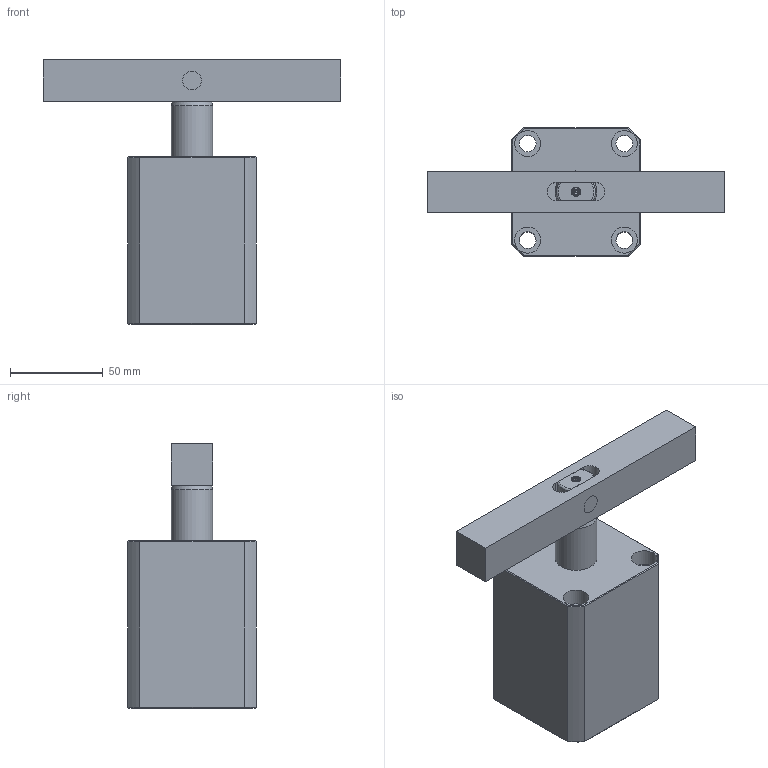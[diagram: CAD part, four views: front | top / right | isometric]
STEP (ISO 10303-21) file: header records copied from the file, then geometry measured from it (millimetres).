
FILE_DESCRIPTION(/* description */ ('Unknown'),/* implementation_level */ '2;1');
FILE_NAME(/* name */ 'HSC-M40D-B',/* time_stamp */ '2019-05-27T15:10:31+08:00',/* author */ ('Unknown'),/* organization */ ('Unknown'),/* preprocessor_version */ 'ST-DEVELOPER v16.7',/* originating_system */ 'DEX',/* authorisation */ $);
FILE_SCHEMA (('AUTOMOTIVE_DESIGN {1 0 10303 214 3 1 1}'));
Length unit declared in the file: millimetre
Products named in the file (5): HSC-M40D-B; HSC-M40D-CYLINDER; HSC-4002-D-AXLE CENTRE; HSC-4002-D-FIXED PIN; HSC-40D-B
Assembly tree (4 placements, depth 2):
  HSC-M40D-B
    HSC-M40D-CYLINDER
    HSC-4002-D-AXLE CENTRE
    HSC-4002-D-FIXED PIN
    HSC-40D-B
Bounding box: 160 x 69 x 142.2 mm (x, y, z)
Volume: 449138.9 mm3; surface area: 80906.3 mm2
Topology: 4 solids, 4 shells, 136 faces, 294 edges, 185 vertices
Faces by surface type: plane 67, cylinder 30, cone 23, bspline 12, torus 4
Full cylindrical faces by diameter (mm): 4.1 x2, 5 x2, 9 x4, 10 x4, 11 x2, 14 x4, 22.4 x2, 40 x2
Entity records: 3601 total; most frequent: CARTESIAN_POINT 799, DIRECTION 552, ORIENTED_EDGE 470, EDGE_CURVE 235, AXIS2_PLACEMENT_3D 226, FACE_BOUND 212, EDGE_LOOP 210, VERTEX_POINT 167
